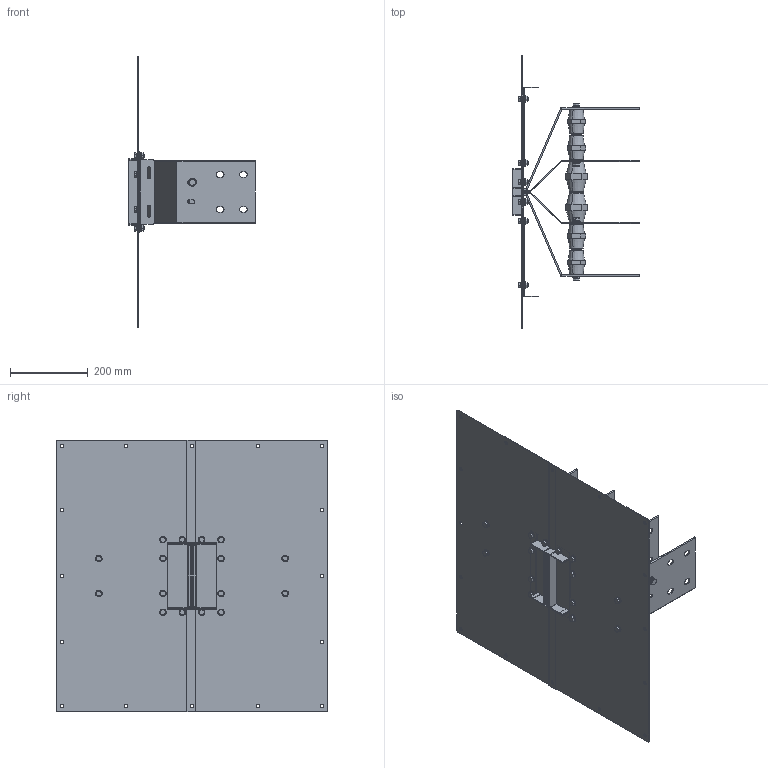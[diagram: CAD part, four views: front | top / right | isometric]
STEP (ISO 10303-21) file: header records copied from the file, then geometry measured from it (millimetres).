
FILE_DESCRIPTION(('CATIA V5 STEP','CAx-IF Rec.Pracs.--- Model Styling and Organization---1.5--- 2016-08-15','CAx-IF Rec.Pracs.---Supplemental Geometry---1.0---2011-11-01','CAx-IF Rec.Pracs.--- Composite Materials ---1.1---2010-07-15'),'2;1');
FILE_NAME('K:\COSCN 2011\32372311_RiduzioneSezioniBarre\03_Studio\__Modelli semplificati\XCP_UB semplificati per studi\XCP-S_UB_4C_Pe_CRT_Assieme\Al\XCP-S_UB_4C_Pe_S_Assieme - 1250A Al\XCP-S_UB_4C_Pe_S_Assieme - 1250A Al_CRT.stp','2025-05-12T12:29:26+00:00',('Utente Bticino'),('Bticino S.p.A.'),'CATIA Version 5-6 Release 2020 SP5','CATIA V5 STEP AP214 v2','none');
FILE_SCHEMA(('AUTOMOTIVE_DESIGN { 1 0 10303 214 1 1 1 1 }'));
Length unit declared in the file: millimetre
Products named in the file (20): XCP-S_UB_4C_Pe_S_Assieme - 1250A Al_CRT; XCP-S_UB_4C_Pe_S_PaccoBarre_1250A Al_CRT; XCP-S_UB_4C_Pe_S_Lamiere_1250A Al_CRT; 130006; 130184; 00750033 - RONDELLA PIANA 4.8 D.12 UNI 6592 ZB; Ass_M10x25.1; 00740025 M10x25 UNI5739; Rondella spac M10 UNI 1751; 00750005; 130006_1; 00750033 - RONDELLA PIANA 4.8 D.12 UNI 6592 ZB_1; 130184_1; 130006_2; 00750033 - RONDELLA PIANA 4.8 D.12 UNI 6592 ZB_2; 130006_3; Viteria UB H130; Ass Vite+dado M8; Steel hex flanged SCREW M12x16; Steel hex flanged NUT M8
Assembly tree (39 placements, depth 4):
  XCP-S_UB_4C_Pe_S_Assieme - 1250A Al_CRT
    XCP-S_UB_4C_Pe_S_PaccoBarre_1250A Al_CRT
    XCP-S_UB_4C_Pe_S_Lamiere_1250A Al_CRT
    130006
    130184
    00750033 - RONDELLA PIANA 4.8 D.12 UNI 6592 ZB
    Ass_M10x25.1  x6
      00740025 M10x25 UNI5739
      Rondella spac M10 UNI 1751
      00750005
    130006_1
    00750033 - RONDELLA PIANA 4.8 D.12 UNI 6592 ZB_1
    130184_1
    130006_2
    00750033 - RONDELLA PIANA 4.8 D.12 UNI 6592 ZB_2
    130006_3
    Viteria UB H130
      Ass Vite+dado M8  x16
        Steel hex flanged SCREW M12x16
        Steel hex flanged NUT M8
Bounding box: 325 x 700 x 700 mm (x, y, z)
Volume: 2729911.7 mm3; surface area: 1956128.2 mm2
Topology: 73 solids, 73 shells, 1652 faces, 3956 edges, 2488 vertices
Faces by surface type: plane 728, cylinder 484, cone 200, bspline 176, torus 64
Entity records: 23540 total; most frequent: CARTESIAN_POINT 5158, ORIENTED_EDGE 3904, DIRECTION 3090, EDGE_CURVE 1952, AXIS2_PLACEMENT_3D 1350, VERTEX_POINT 1248, VECTOR 1124, LINE 1124
